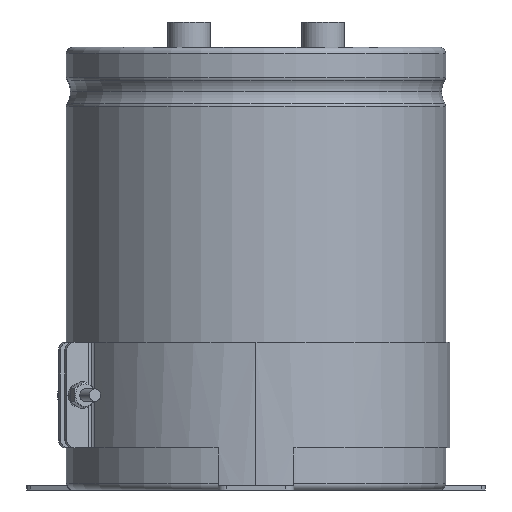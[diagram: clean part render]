
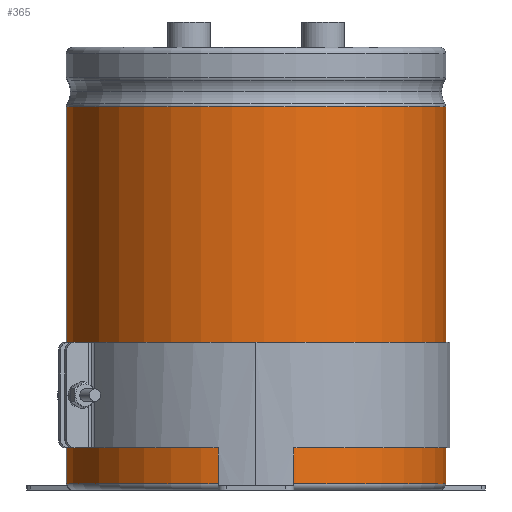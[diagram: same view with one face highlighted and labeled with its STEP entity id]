
A CAD part, left-side view. The second image highlights one B-rep face of the part: STEP entity #365.
In plain terms, the highlighted cylindrical face has radius 45 mm (diameter 90 mm), a partial arc.
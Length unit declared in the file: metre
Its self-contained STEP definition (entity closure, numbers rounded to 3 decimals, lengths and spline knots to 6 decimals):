
#365=ADVANCED_FACE('0:237',(#597),#598,.T.);
#597=FACE_OUTER_BOUND('',#1082,.T.);
#598=CYLINDRICAL_SURFACE('',#1083,0.045);
#1082=EDGE_LOOP('',(#2038,#2039,#2040,#2041));
#1083=AXIS2_PLACEMENT_3D('',#2042,#2043,#2044);
#2038=ORIENTED_EDGE('',*,*,#2995,.T.);
#2039=ORIENTED_EDGE('',*,*,#3004,.T.);
#2040=ORIENTED_EDGE('',*,*,#3006,.T.);
#2041=ORIENTED_EDGE('',*,*,#3007,.F.);
#2042=CARTESIAN_POINT('',(0.0,0.0,0.0));
#2043=DIRECTION('',(-0.0,0.0,1.0));
#2044=DIRECTION('',(0.0,1.0,0.0));
#2995=EDGE_CURVE('',#5626,#5634,#5635,.T.);
#3004=EDGE_CURVE('0:309',#5634,#5645,#5647,.T.);
#3006=EDGE_CURVE('0:312',#5645,#5649,#5650,.T.);
#3007=EDGE_CURVE('0:315',#5626,#5649,#5651,.T.);
#5626=VERTEX_POINT('',#6662);
#5634=VERTEX_POINT('',#6670);
#5635=LINE('',#6671,#6672);
#5645=VERTEX_POINT('',#6683);
#5647=CIRCLE('',#6685,0.045);
#5649=VERTEX_POINT('',#6687);
#5650=LINE('',#6688,#6689);
#5651=CIRCLE('',#6690,0.045);
#6662=CARTESIAN_POINT('',(0.,-0.045,0.0015));
#6670=CARTESIAN_POINT('',(0.,-0.045,0.0909));
#6671=CARTESIAN_POINT('',(0.,-0.045,0.0462));
#6672=VECTOR('',#8209,1.0);
#6683=CARTESIAN_POINT('',(-0.004,0.044822,0.0909));
#6685=AXIS2_PLACEMENT_3D('',#8226,#8227,#8228);
#6687=CARTESIAN_POINT('',(-0.004,0.044822,0.0015));
#6688=CARTESIAN_POINT('',(-0.004,0.044822,0.0909));
#6689=VECTOR('',#8229,0.001);
#6690=AXIS2_PLACEMENT_3D('',#8230,#8231,#8232);
#8209=DIRECTION('',(0.0,0.0,1.0));
#8226=CARTESIAN_POINT('',(0.0,0.0,0.0909));
#8227=DIRECTION('',(0.0,0.0,-1.0));
#8228=DIRECTION('',(0.0,1.0,0.0));
#8229=DIRECTION('',(0.0,0.0,-1.0));
#8230=CARTESIAN_POINT('',(0.0,0.0,0.0015));
#8231=DIRECTION('',(0.0,0.0,-1.0));
#8232=DIRECTION('',(0.0,1.0,0.0));
